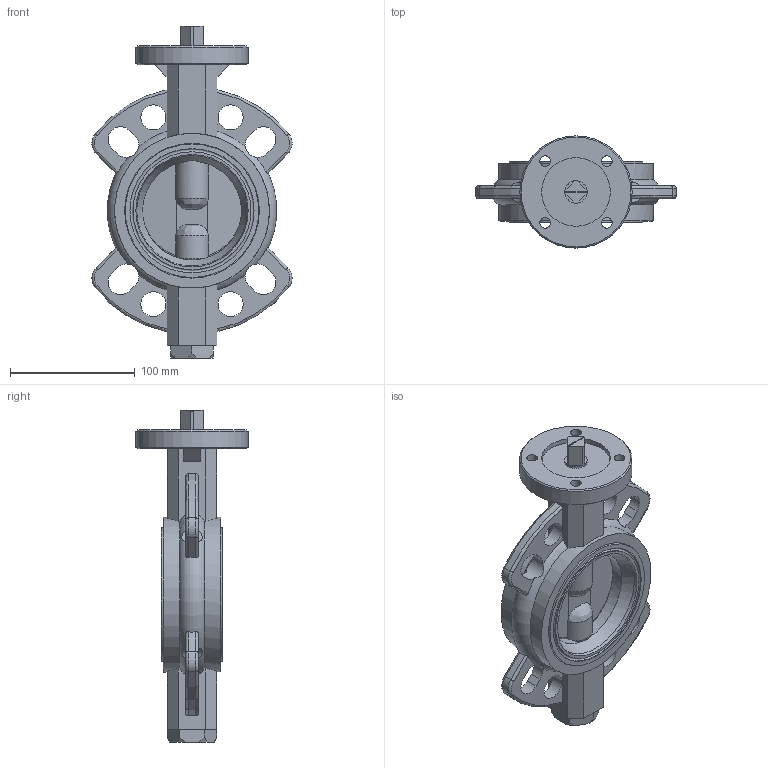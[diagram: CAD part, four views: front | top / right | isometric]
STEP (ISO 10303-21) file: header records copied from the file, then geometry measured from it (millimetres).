
FILE_DESCRIPTION( ( 'STEP AP214' ), '1' );
FILE_NAME( ' ', ' ', ( ' ' ), ( ' ' ), 'PSStep 13.0', 'VISI 18.0', ' ' );
FILE_SCHEMA( ( 'AUTOMOTIVE_DESIGN { 1 0 10303 214 1 1 1 1 }' ) );
Length unit declared in the file: millimetre
Products named in the file (1): 1
Bounding box: 160.36 x 90 x 266 mm (x, y, z)
Volume: 697282.6 mm3; surface area: 123157.3 mm2
Topology: 1 solids, 2 shells, 193 faces, 554 edges, 363 vertices
Faces by surface type: plane 88, cylinder 62, torus 23, cone 12, bspline 8
Full cylindrical faces by diameter (mm): 8.5 x4, 18 x1, 20 x4, 55 x1, 90 x1, 94.5 x2, 99.5 x2, 107 x2, 108 x3, 124 x2
Entity records: 9651 total; most frequent: CARTESIAN_POINT 3204, ORIENTED_EDGE 1022, DIRECTION 994, EDGE_CURVE 511, AXIS2_PLACEMENT_3D 393, VERTEX_POINT 351, EDGE_LOOP 256, FACE_OUTER_BOUND 218
